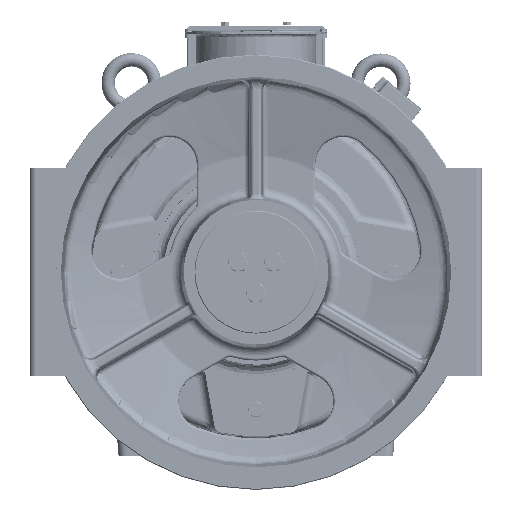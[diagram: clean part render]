
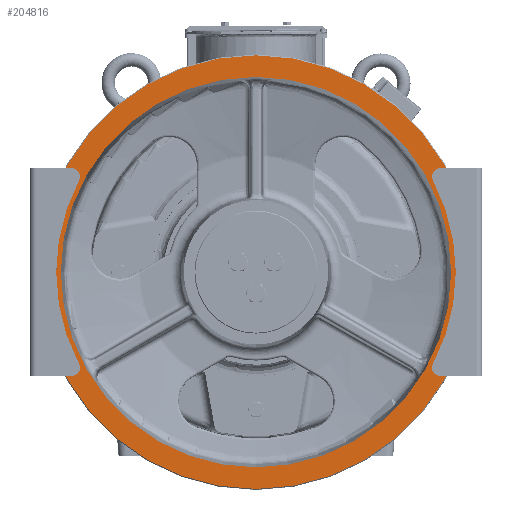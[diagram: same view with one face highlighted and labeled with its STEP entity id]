
A CAD part, top view. The second image highlights one B-rep face of the part: STEP entity #204816.
In plain terms, the highlighted planar face has unit normal (0, 0, 1) as drawn and (0, 1, 0) by its records, which use the part's own axes.
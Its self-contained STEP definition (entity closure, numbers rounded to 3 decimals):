
#190583=CARTESIAN_POINT('',(0.,70.,0.));
#190584=DIRECTION('',(0.,-1.,0.));
#190585=DIRECTION('',(0.,0.,-1.));
#190586=AXIS2_PLACEMENT_3D('',#190583,#190584,#190585);
#190588=CARTESIAN_POINT('',(0.,70.,0.));
#190589=DIRECTION('',(0.,-1.,0.));
#190590=DIRECTION('',(0.,0.,1.));
#190591=AXIS2_PLACEMENT_3D('',#190588,#190589,#190590);
#190593=CARTESIAN_POINT('',(0.,70.,0.));
#190594=DIRECTION('',(0.,1.,0.));
#190595=DIRECTION('',(0.,0.,1.));
#190596=AXIS2_PLACEMENT_3D('',#190593,#190594,#190595);
#190598=CARTESIAN_POINT('',(0.,70.,0.));
#190599=DIRECTION('',(0.,1.,0.));
#190600=DIRECTION('',(0.,0.,-1.));
#190601=AXIS2_PLACEMENT_3D('',#190598,#190599,#190600);
#203475=CARTESIAN_POINT('',(0.,70.,-235.));
#203476=CARTESIAN_POINT('',(0.,70.,235.));
#203477=VERTEX_POINT('',#203475);
#203478=VERTEX_POINT('',#203476);
#203499=CARTESIAN_POINT('',(0.,70.,-261.));
#203500=CARTESIAN_POINT('',(0.,70.,261.));
#203501=VERTEX_POINT('',#203499);
#203502=VERTEX_POINT('',#203500);
#204800=CARTESIAN_POINT('',(0.,70.,0.));
#204801=DIRECTION('',(0.,-1.,0.));
#204802=DIRECTION('',(0.,0.,1.));
#204803=AXIS2_PLACEMENT_3D('',#204800,#204801,#204802);
#204804=PLANE('',#204803);
#204806=ORIENTED_EDGE('',*,*,#204805,.T.);
#204808=ORIENTED_EDGE('',*,*,#204807,.T.);
#204809=EDGE_LOOP('',(#204806,#204808));
#204810=FACE_OUTER_BOUND('',#204809,.F.);
#204812=ORIENTED_EDGE('',*,*,#204811,.T.);
#204813=ORIENTED_EDGE('',*,*,#204767,.T.);
#204814=EDGE_LOOP('',(#204812,#204813));
#204815=FACE_BOUND('',#204814,.F.);
#204816=ADVANCED_FACE('',(#204810,#204815),#204804,.F.);
#190587=CIRCLE('',#190586,261.);
#190592=CIRCLE('',#190591,261.);
#190597=CIRCLE('',#190596,235.);
#190602=CIRCLE('',#190601,235.);
#204767=EDGE_CURVE('',#203477,#203478,#190602,.T.);
#204805=EDGE_CURVE('',#203501,#203502,#190587,.T.);
#204807=EDGE_CURVE('',#203502,#203501,#190592,.T.);
#204811=EDGE_CURVE('',#203478,#203477,#190597,.T.);
